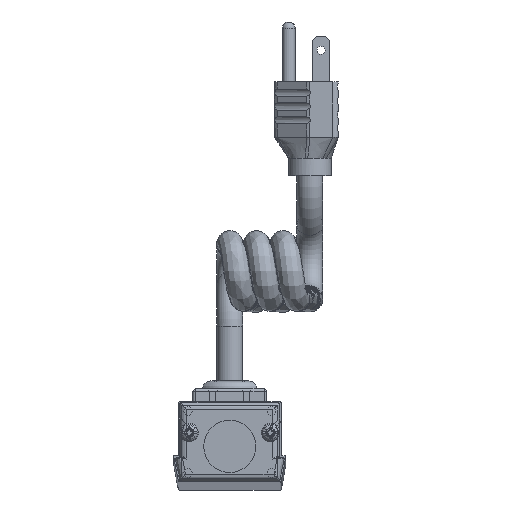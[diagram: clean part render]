
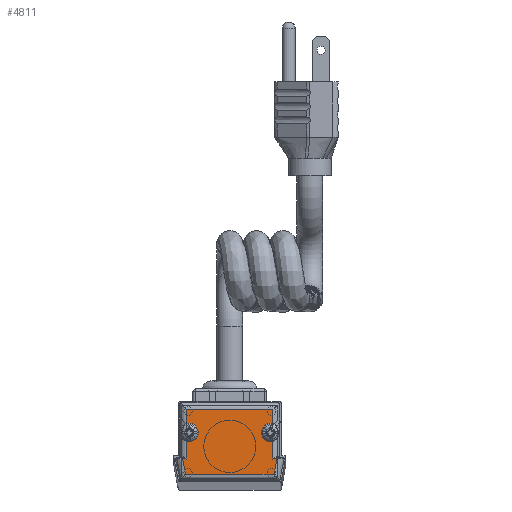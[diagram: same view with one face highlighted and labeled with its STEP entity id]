
A CAD part, top view. The second image highlights one B-rep face of the part: STEP entity #4811.
In plain terms, the highlighted planar face has unit normal (0, 0, 1).
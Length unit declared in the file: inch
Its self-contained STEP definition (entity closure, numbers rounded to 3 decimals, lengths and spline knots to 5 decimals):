
#4637=CARTESIAN_POINT('',(-15.7226,16.40547,2.54));
#4638=VERTEX_POINT('',#4637);
#4639=CARTESIAN_POINT('',(-15.7226,19.05293,2.54));
#4640=VERTEX_POINT('',#4639);
#4658=CARTESIAN_POINT('',(-14.8463,17.7292,2.54));
#4659=DIRECTION('',(0.0,0.0,-1.0));
#4660=DIRECTION('',(1.0,0.0,0.0));
#4661=AXIS2_PLACEMENT_3D('',#4658,#4659,#4660);
#4662=CIRCLE('',#4661,1.5875);
#4663=EDGE_CURVE('',#4640,#4638,#4662,.T.);
#4684=CARTESIAN_POINT('',(15.7226,19.05293,2.54));
#4685=VERTEX_POINT('',#4684);
#4686=CARTESIAN_POINT('',(15.7226,16.40547,2.54));
#4687=VERTEX_POINT('',#4686);
#4705=CARTESIAN_POINT('',(14.8463,17.7292,2.54));
#4706=DIRECTION('',(0.0,0.0,-1.0));
#4707=DIRECTION('',(1.0,0.0,0.0));
#4708=AXIS2_PLACEMENT_3D('',#4705,#4706,#4707);
#4709=CIRCLE('',#4708,1.5875);
#4710=EDGE_CURVE('',#4687,#4685,#4709,.T.);
#4726=CARTESIAN_POINT('',(0.,14.10876,2.54));
#4727=DIRECTION('',(0.0,0.0,1.0));
#4728=DIRECTION('',(1.0,0.0,0.0));
#4729=AXIS2_PLACEMENT_3D('',#4726,#4727,#4728);
#4730=PLANE('',#4729);
#4731=ORIENTED_EDGE('',*,*,#4663,.T.);
#4732=CARTESIAN_POINT('',(-15.7226,8.06566,2.54));
#4733=VERTEX_POINT('',#4732);
#4734=CARTESIAN_POINT('',(-15.7226,8.06566,2.54));
#4735=DIRECTION('',(0.0,1.0,0.0));
#4736=VECTOR('',#4735,8.33981);
#4737=LINE('',#4734,#4736);
#4738=EDGE_CURVE('',#4733,#4638,#4737,.T.);
#4739=ORIENTED_EDGE('',*,*,#4738,.F.);
#4740=CARTESIAN_POINT('',(-17.26917,8.20097,2.54));
#4741=VERTEX_POINT('',#4740);
#4742=CARTESIAN_POINT('',(-17.26917,8.20097,2.54));
#4743=DIRECTION('',(0.996,-0.087,0.0));
#4744=VECTOR('',#4743,1.55247);
#4745=LINE('',#4742,#4744);
#4746=EDGE_CURVE('',#4741,#4733,#4745,.T.);
#4747=ORIENTED_EDGE('',*,*,#4746,.F.);
#4748=CARTESIAN_POINT('',(-16.16879,2.54,2.54));
#4749=VERTEX_POINT('',#4748);
#4750=CARTESIAN_POINT('',(-16.16879,2.54,2.54));
#4751=DIRECTION('',(-0.191,0.982,0.0));
#4752=VECTOR('',#4751,5.76692);
#4753=LINE('',#4750,#4752);
#4754=EDGE_CURVE('',#4749,#4741,#4753,.T.);
#4755=ORIENTED_EDGE('',*,*,#4754,.F.);
#4756=CARTESIAN_POINT('',(16.16879,2.54,2.54));
#4757=VERTEX_POINT('',#4756);
#4758=CARTESIAN_POINT('',(16.16879,2.54,2.54));
#4759=DIRECTION('',(-1.0,0.0,0.0));
#4760=VECTOR('',#4759,32.33757);
#4761=LINE('',#4758,#4760);
#4762=EDGE_CURVE('',#4757,#4749,#4761,.T.);
#4763=ORIENTED_EDGE('',*,*,#4762,.F.);
#4764=CARTESIAN_POINT('',(17.26917,8.20097,2.54));
#4765=VERTEX_POINT('',#4764);
#4766=CARTESIAN_POINT('',(17.26917,8.20097,2.54));
#4767=DIRECTION('',(-0.191,-0.982,0.0));
#4768=VECTOR('',#4767,5.76692);
#4769=LINE('',#4766,#4768);
#4770=EDGE_CURVE('',#4765,#4757,#4769,.T.);
#4771=ORIENTED_EDGE('',*,*,#4770,.F.);
#4772=CARTESIAN_POINT('',(15.7226,8.06566,2.54));
#4773=VERTEX_POINT('',#4772);
#4774=CARTESIAN_POINT('',(15.7226,8.06566,2.54));
#4775=DIRECTION('',(0.996,0.087,0.0));
#4776=VECTOR('',#4775,1.55247);
#4777=LINE('',#4774,#4776);
#4778=EDGE_CURVE('',#4773,#4765,#4777,.T.);
#4779=ORIENTED_EDGE('',*,*,#4778,.F.);
#4780=CARTESIAN_POINT('',(15.7226,16.40547,2.54));
#4781=DIRECTION('',(0.0,-1.0,0.0));
#4782=VECTOR('',#4781,8.33981);
#4783=LINE('',#4780,#4782);
#4784=EDGE_CURVE('',#4687,#4773,#4783,.T.);
#4785=ORIENTED_EDGE('',*,*,#4784,.F.);
#4786=ORIENTED_EDGE('',*,*,#4710,.T.);
#4787=CARTESIAN_POINT('',(15.7226,26.035,2.54));
#4788=VERTEX_POINT('',#4787);
#4789=CARTESIAN_POINT('',(15.7226,26.035,2.54));
#4790=DIRECTION('',(0.0,-1.0,0.0));
#4791=VECTOR('',#4790,6.98207);
#4792=LINE('',#4789,#4791);
#4793=EDGE_CURVE('',#4788,#4685,#4792,.T.);
#4794=ORIENTED_EDGE('',*,*,#4793,.F.);
#4795=CARTESIAN_POINT('',(-15.7226,26.035,2.54));
#4796=VERTEX_POINT('',#4795);
#4797=CARTESIAN_POINT('',(-15.7226,26.035,2.54));
#4798=DIRECTION('',(1.0,0.0,0.0));
#4799=VECTOR('',#4798,31.4452);
#4800=LINE('',#4797,#4799);
#4801=EDGE_CURVE('',#4796,#4788,#4800,.T.);
#4802=ORIENTED_EDGE('',*,*,#4801,.F.);
#4803=CARTESIAN_POINT('',(-15.7226,19.05293,2.54));
#4804=DIRECTION('',(0.0,1.0,0.0));
#4805=VECTOR('',#4804,6.98207);
#4806=LINE('',#4803,#4805);
#4807=EDGE_CURVE('',#4640,#4796,#4806,.T.);
#4808=ORIENTED_EDGE('',*,*,#4807,.F.);
#4809=EDGE_LOOP('',(#4731,#4739,#4747,#4755,#4763,#4771,#4779,#4785,#4786,#4794,#4802,#4808));
#4810=FACE_OUTER_BOUND('',#4809,.T.);
#4811=ADVANCED_FACE('',(#4810),#4730,.T.);
